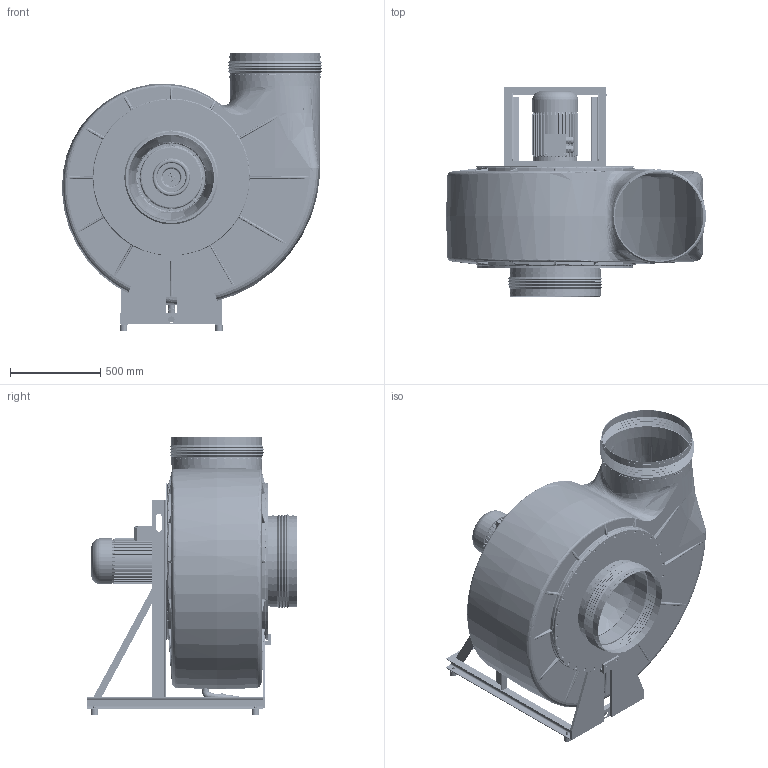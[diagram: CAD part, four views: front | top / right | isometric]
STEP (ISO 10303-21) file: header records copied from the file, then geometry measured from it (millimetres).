
FILE_DESCRIPTION( ( 'Unknown' ), '1' );
FILE_NAME( 'K:/HOME/HLT_CAD/Z/HF/3D/Zusammenstellung/HFR/HFR 15_17/HFR...-15D/DS_1/HFR_500-15D/GR360/HFR_500-15D_DS1_GR_360_132.stp', 'Unknown', ( 'Unknown' ), ( 'Unknown' ), 'PSStep 14.0', 'Unknown', ' ' );
FILE_SCHEMA( ( 'AUTOMOTIVE_DESIGN { 1 0 10303 214 1 1 1 1 }' ) );
Length unit declared in the file: millimetre
Products named in the file (69): 5159_Kondensatablauf_355-500; Stopfen_G1-oa0; Rohr_Ø32; Verschlusskappe_Ø31,8; Schelle; 721100108-Winkel_90°-DN25_d=32; Schlauch_Ø32; 5118_Gestell_HFR500-15D; C-Channel 65x42-oa1; C-Channel 65x42-oa2; Angle 60x30x5-oa3; Angle 40x40x4-oa4; Angle 40x40x4-oa5; Angle 40x40x4-oa6; Angle 80x40x6-oa7; Angle 80x40x6-oa8; Angle 25x4-oa9; 5118_Gehäuseplatte; HFR 500_GR; Gehäuse 500_GR_Abgeschn; Ensat-Buchse-M8; 5003_Man 500; 5003_Manschettenband_Ø500; 5003_4_Schelle_Ø500; 5140_Gehäusedeckel; 500; 5140_Rohr; GD_FL 500; 5140_Rohr_400; Assem1; Schwidä_40x30; 6kant_M8; 6611_Motorring_Bg132; 5200_Befestigungsklammer_HFR500; 5200_Stützplatte_HFR500_90°-180°-360°_DS1; B5_132M_2HIHI
Assembly tree (152 placements, depth 3):
  Assem1
    Schwidä_40x30  x4
    6kant_M8  x4
    6611_Motorring_Bg132
    5200_Befestigungsklammer_HFR500
    5200_Stützplatte_HFR500_90°-180°-360°_DS1  x2
    5200_Stützplatte_HFR500_90°-180°-360°_DS1  x2
    B5_132M_2HIHI
    HFR 500_GR
      Gehäuse 500_GR_Abgeschn
      Gehäuse 500_GR_Abgeschn
      Gehäuse 500_GR_Abgeschn
      Gehäuse 500_GR_Abgeschn
      Gehäuse 500_GR_Abgeschn
      Gehäuse 500_GR_Abgeschn
      Gehäuse 500_GR_Abgeschn
      Gehäuse 500_GR_Abgeschn
      Gehäuse 500_GR_Abgeschn
      Gehäuse 500_GR_Abgeschn
      Gehäuse 500_GR_Abgeschn
      Gehäuse 500_GR_Abgeschn
      Gehäuse 500_GR_Abgeschn
      Gehäuse 500_GR_Abgeschn
      Gehäuse 500_GR_Abgeschn
      Gehäuse 500_GR_Abgeschn
      Gehäuse 500_GR_Abgeschn
      Gehäuse 500_GR_Abgeschn
      Gehäuse 500_GR_Abgeschn
      Gehäuse 500_GR_Abgeschn
      Gehäuse 500_GR_Abgeschn
      Gehäuse 500_GR_Abgeschn
      Gehäuse 500_GR_Abgeschn
      Gehäuse 500_GR_Abgeschn
      Gehäuse 500_GR_Abgeschn
      Gehäuse 500_GR_Abgeschn
      Gehäuse 500_GR_Abgeschn
      Gehäuse 500_GR_Abgeschn
      Gehäuse 500_GR_Abgeschn
      Gehäuse 500_GR_Abgeschn
      Gehäuse 500_GR_Abgeschn
      Gehäuse 500_GR_Abgeschn
      Gehäuse 500_GR_Abgeschn
      Ensat-Buchse-M8  x72
    5003_Man 500  x2
      5003_Manschettenband_Ø500
      5003_4_Schelle_Ø500
    5159_Kondensatablauf_355-500
      Stopfen_G1-oa0
      Rohr_Ø32  x2
      Verschlusskappe_Ø31,8
      Schelle  x2
      721100108-Winkel_90°-DN25_d=32
      Schlauch_Ø32
    5140_Gehäusedeckel
      500  x2
      5140_Rohr
      GD_FL 500
      5140_Rohr_400
    5118_Gestell_HFR500-15D
      C-Channel 65x42-oa1
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Bounding box: 1443.71 x 1162.06 x 1538 mm (x, y, z)
Volume: 42550853.5 mm3; surface area: 15710646.4 mm2
Topology: 148 solids, 149 shells, 3485 faces, 7491 edges, 4746 vertices
Faces by surface type: plane 1495, cylinder 1181, bspline 367, torus 209, cone 145, sphere 46, offset 36, revolution 6
Full cylindrical faces by diameter (mm): 6.647 x80, 8 x8, 10.106 x1, 10.5 x8, 11 x4, 12 x256, 13 x226, 14 x16, 14.5 x8, 15 x36, 16 x12, 17 x64, 18 x2, 22 x1, 23 x1, 25.6 x2, 28.4 x2, 31.8 x1, 32 x5, 34.8 x1, 35.244 x1, 36 x1, 38 x1, 38.2 x2, 40 x7, 42 x4, 45.6 x1, 95 x1, 102 x1, 110 x1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
Entity records: 160765 total; most frequent: CARTESIAN_POINT 82877, DIRECTION 11665, ORIENTED_EDGE 10542, EDGE_CURVE 5271, AXIS2_PLACEMENT_3D 4916, EDGE_LOOP 3691, VERTEX_POINT 3541, FACE_OUTER_BOUND 3156
